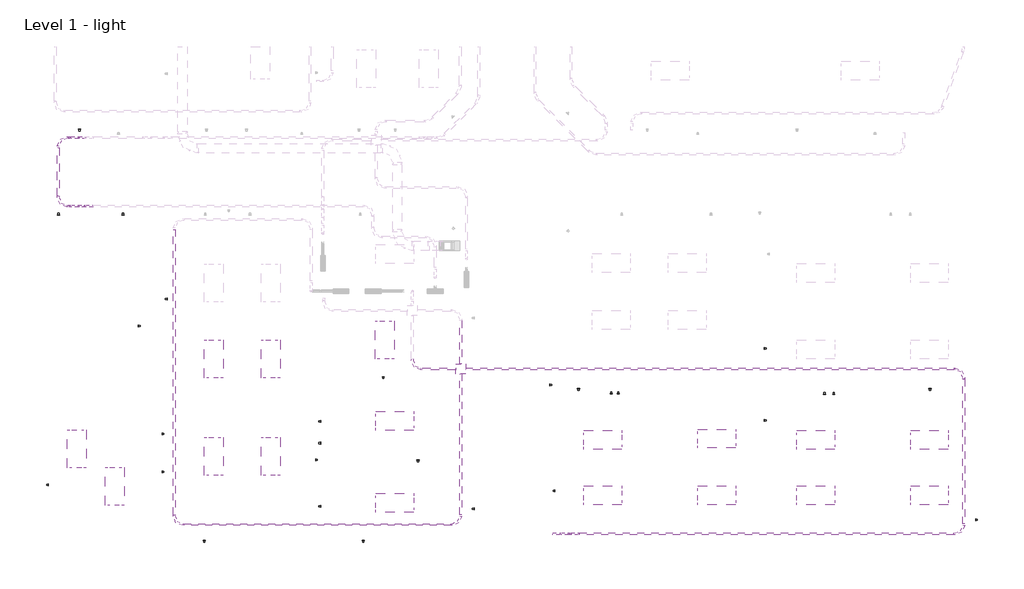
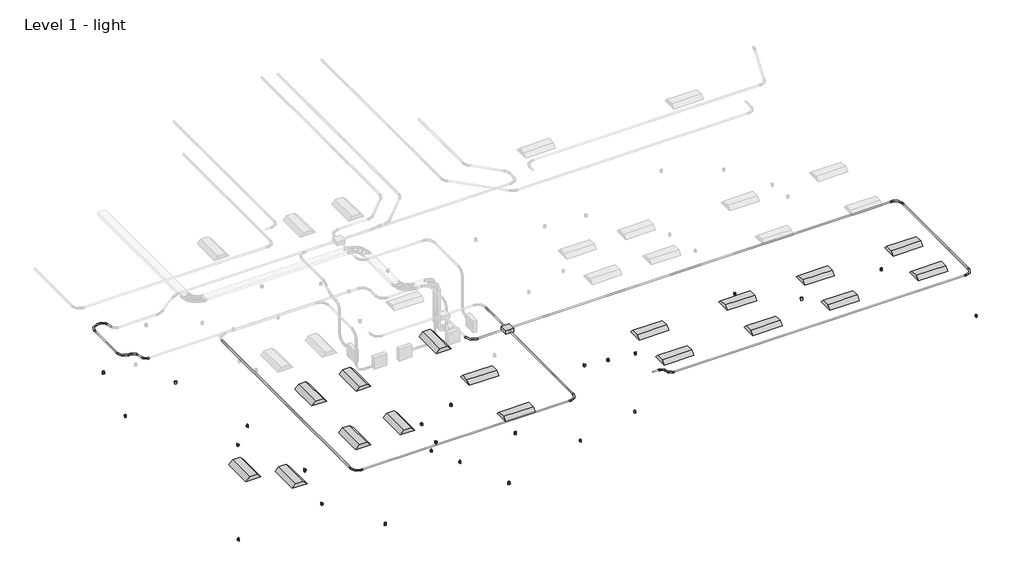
# One storey, part 1 of 5: 21 proxies, 17 light fixtures, 15 cable carrier segments, 13 cable carrier fittings, 7 switching devices.
"""IFC4 building model written with IfcOpenShell, lengths in millimetres."""

from ifc_helpers import new_model, si_unit, point, frame, frame_2d, origin, place, context, project, spatial, circle_curve, trimmed, segment, composite_curve, outline, extrude, transform, mapped, element, save
from components import m_duplex_receptacle_standard_10251bba, m_conduit_elbow_without_fittings_rnc_standard_30e86c5b, m_conduit_elbow_without_fittings_rnc_standard_89ecd00f, m_conduit_junction_box_cross_pvc_standard_3c8550d1, m_plain_recessed_lighting_fixture_c7d3eefa

model = new_model("IFC4")

# Units and contexts
model_context = context("Model", 3, world=origin())
ifc_project = project(units=[si_unit("LENGTHUNIT", "METRE", prefix="MILLI")], contexts=[model_context])

# Site, building, storey
site = spatial("IfcSite", under=ifc_project)
building = spatial("IfcBuilding", under=site)
storey = spatial("IfcBuildingStorey", under=building, Name="Level 1 - light", Elevation=0.0)

# Proxies
placement = place(None, origin())
m_duplex_receptacle_standard_shape = m_duplex_receptacle_standard_10251bba(model_context)
element("IfcBuildingElementProxy", 1, Name="M_Duplex Receptacle : Standard", ObjectType="M_Duplex Receptacle : Standard", at=placement, inside=storey, context=model_context, shape_type="MappedRepresentation", body=[
    mapped(m_duplex_receptacle_standard_shape, transform((-18902.5230824, 6803.8737109, 460.0), x_axis=(-1.0, 0.0, 0.0), y_axis=(0.0, 0.0, 1.0), z_axis=(0.0, 1.0, 0.0))),
])
element("IfcBuildingElementProxy", 2, Name="M_Duplex Receptacle : Standard", ObjectType="M_Duplex Receptacle : Standard", at=placement, inside=storey, context=model_context, shape_type="MappedRepresentation", body=[
    mapped(m_duplex_receptacle_standard_shape, transform((-3798.337755, -1407.3893409, 460.0), x_axis=(0.0, -1.0, 0.0), y_axis=(0.0, 0.0, 1.0), z_axis=(-1.0, 0.0, 0.0))),
])
element("IfcBuildingElementProxy", 3, Name="M_Duplex Receptacle : Standard", ObjectType="M_Duplex Receptacle : Standard", at=placement, inside=storey, context=model_context, shape_type="MappedRepresentation", body=[
    mapped(m_duplex_receptacle_standard_shape, transform((-6236.737755, -5394.1016203, 460.0), x_axis=(0.0, 1.0, 0.0), y_axis=(0.0, 0.0, 1.0), z_axis=(1.0, 0.0, 0.0))),
])
element("IfcBuildingElementProxy", 4, Name="M_Duplex Receptacle : Standard", ObjectType="M_Duplex Receptacle : Standard", at=placement, inside=storey, context=model_context, shape_type="MappedRepresentation", body=[
    mapped(m_duplex_receptacle_standard_shape, transform((-16091.937755, 1352.2197194, 460.0), x_axis=(0.0, 1.0, 0.0), y_axis=(0.0, 0.0, 1.0), z_axis=(1.0, 0.0, 0.0))),
])
element("IfcBuildingElementProxy", 5, Name="M_Duplex Receptacle : Standard", ObjectType="M_Duplex Receptacle : Standard", at=placement, inside=storey, context=model_context, shape_type="MappedRepresentation", body=[
    mapped(m_duplex_receptacle_standard_shape, transform((-9148.365511, -1149.5012891, 460.0), x_axis=(-1.0, 0.0, 0.0), y_axis=(0.0, 0.0, 1.0), z_axis=(0.0, 1.0, 0.0))),
])
element("IfcBuildingElementProxy", 6, Name="M_Duplex Receptacle : Standard", ObjectType="M_Duplex Receptacle : Standard", at=placement, inside=storey, context=model_context, shape_type="MappedRepresentation", body=[
    mapped(m_duplex_receptacle_standard_shape, transform((-14893.5822087, -6410.4762891, 460.0), x_axis=(-1.0, 0.0, 0.0), y_axis=(0.0, 0.0, 1.0), z_axis=(0.0, 1.0, 0.0))),
])
element("IfcBuildingElementProxy", 7, Name="M_Duplex Receptacle : Standard", ObjectType="M_Duplex Receptacle : Standard", at=placement, inside=storey, context=model_context, shape_type="MappedRepresentation", body=[
    mapped(m_duplex_receptacle_standard_shape, transform((-8035.7909657, -3829.2012891, 460.0), x_axis=(-1.0, 0.0, 0.0), y_axis=(0.0, 0.0, 1.0), z_axis=(0.0, 1.0, 0.0))),
])
element("IfcBuildingElementProxy", 8, Name="M_Duplex Receptacle : Standard", ObjectType="M_Duplex Receptacle : Standard", at=placement, inside=storey, context=model_context, shape_type="MappedRepresentation", body=[
    mapped(m_duplex_receptacle_standard_shape, transform((-11164.337755, -3278.9789683, 460.0), x_axis=(0.0, 1.0, 0.0), y_axis=(0.0, 0.0, 1.0), z_axis=(1.0, 0.0, 0.0))),
])
element("IfcBuildingElementProxy", 9, Name="M_Duplex Receptacle : Standard", ObjectType="M_Duplex Receptacle : Standard", at=placement, inside=storey, context=model_context, shape_type="MappedRepresentation", body=[
    mapped(m_duplex_receptacle_standard_shape, transform((-9792.0545767, -6410.4762891, 460.0), x_axis=(-1.0, 0.0, 0.0), y_axis=(0.0, 0.0, 1.0), z_axis=(0.0, 1.0, 0.0))),
])
element("IfcBuildingElementProxy", 10, Name="M_Duplex Receptacle : Standard", ObjectType="M_Duplex Receptacle : Standard", at=placement, inside=storey, context=model_context, shape_type="MappedRepresentation", body=[
    mapped(m_duplex_receptacle_standard_shape, transform((-19905.112755, -4617.0845767, 460.0), x_axis=(0.0, 1.0, 0.0), y_axis=(0.0, 0.0, 1.0), z_axis=(1.0, 0.0, 0.0))),
])
element("IfcBuildingElementProxy", 11, Name="M_Duplex Receptacle : Standard", ObjectType="M_Duplex Receptacle : Standard", at=placement, inside=storey, context=model_context, shape_type="MappedRepresentation", body=[
    mapped(m_duplex_receptacle_standard_shape, transform((-16247.512755, -4198.9265741, 460.0), x_axis=(0.0, -1.0, 0.0), y_axis=(0.0, 0.0, 1.0), z_axis=(-1.0, 0.0, 0.0))),
])
element("IfcBuildingElementProxy", 12, Name="M_Duplex Receptacle : Standard", ObjectType="M_Duplex Receptacle : Standard", at=placement, inside=storey, context=model_context, shape_type="MappedRepresentation", body=[
    mapped(m_duplex_receptacle_standard_shape, transform((-19576.9518381, 4054.3237109, 460.0), x_axis=(1.0, 0.0, 0.0), y_axis=(0.0, 0.0, 1.0), z_axis=(0.0, -1.0, 0.0))),
])
element("IfcBuildingElementProxy", 13, Name="M_Duplex Receptacle : Standard", ObjectType="M_Duplex Receptacle : Standard", at=placement, inside=storey, context=model_context, shape_type="MappedRepresentation", body=[
    mapped(m_duplex_receptacle_standard_shape, transform((-17012.687755, 487.1285997, 460.0), x_axis=(0.0, -1.0, 0.0), y_axis=(0.0, 0.0, 1.0), z_axis=(-1.0, 0.0, 0.0))),
])
element("IfcBuildingElementProxy", 14, Name="M_Duplex Receptacle : Standard", ObjectType="M_Duplex Receptacle : Standard", at=placement, inside=storey, context=model_context, shape_type="MappedRepresentation", body=[
    mapped(m_duplex_receptacle_standard_shape, transform((-2884.7717445, -1533.6762891, 460.0), x_axis=(-1.0, 0.0, 0.0), y_axis=(0.0, 0.0, 1.0), z_axis=(0.0, 1.0, 0.0))),
])
element("IfcBuildingElementProxy", 15, Name="M_Duplex Receptacle : Standard", ObjectType="M_Duplex Receptacle : Standard", at=placement, inside=storey, context=model_context, shape_type="MappedRepresentation", body=[
    mapped(m_duplex_receptacle_standard_shape, transform((3085.062245, -240.4622069, 460.0), x_axis=(0.0, -1.0, 0.0), y_axis=(0.0, 0.0, 1.0), z_axis=(-1.0, 0.0, 0.0))),
])
element("IfcBuildingElementProxy", 16, Name="M_Duplex Receptacle : Standard", ObjectType="M_Duplex Receptacle : Standard", at=placement, inside=storey, context=model_context, shape_type="MappedRepresentation", body=[
    mapped(m_duplex_receptacle_standard_shape, transform((8403.1229199, -1533.6762891, 460.0), x_axis=(-1.0, 0.0, 0.0), y_axis=(0.0, 0.0, 1.0), z_axis=(0.0, 1.0, 0.0))),
])
element("IfcBuildingElementProxy", 17, Name="M_Duplex Receptacle : Standard", ObjectType="M_Duplex Receptacle : Standard", at=placement, inside=storey, context=model_context, shape_type="MappedRepresentation", body=[
    mapped(m_duplex_receptacle_standard_shape, transform((-1830.9426075, -1689.2512891, 460.0), x_axis=(1.0, 0.0, 0.0), y_axis=(0.0, 0.0, 1.0), z_axis=(0.0, -1.0, 0.0))),
])
element("IfcBuildingElementProxy", 18, Name="M_Duplex Receptacle : Standard", ObjectType="M_Duplex Receptacle : Standard", at=placement, inside=storey, context=model_context, shape_type="MappedRepresentation", body=[
    mapped(m_duplex_receptacle_standard_shape, transform((-3642.762755, -4807.9310648, 460.0), x_axis=(0.0, 1.0, 0.0), y_axis=(0.0, 0.0, 1.0), z_axis=(1.0, 0.0, 0.0))),
])
element("IfcBuildingElementProxy", 19, Name="M_Duplex Receptacle : Standard", ObjectType="M_Duplex Receptacle : Standard", at=placement, inside=storey, context=model_context, shape_type="MappedRepresentation", body=[
    mapped(m_duplex_receptacle_standard_shape, transform((3085.062245, -2553.3765344, 460.0), x_axis=(0.0, -1.0, 0.0), y_axis=(0.0, 0.0, 1.0), z_axis=(-1.0, 0.0, 0.0))),
])
element("IfcBuildingElementProxy", 20, Name="M_Duplex Receptacle : Standard", ObjectType="M_Duplex Receptacle : Standard", at=placement, inside=storey, context=model_context, shape_type="MappedRepresentation", body=[
    mapped(m_duplex_receptacle_standard_shape, transform((5015.2046862, -1709.8887891, 460.0), x_axis=(-1.0, 0.0, 0.0), y_axis=(0.0, 0.0, -1.0), z_axis=(0.0, -1.0, 0.0))),
])
element("IfcBuildingElementProxy", 21, Name="M_Duplex Receptacle : Standard", ObjectType="M_Duplex Receptacle : Standard", at=placement, inside=storey, context=model_context, shape_type="MappedRepresentation", body=[
    mapped(m_duplex_receptacle_standard_shape, transform((9870.037245, -5742.7463579, 460.0), x_axis=(0.0, -1.0, 0.0), y_axis=(0.0, 0.0, 1.0), z_axis=(-1.0, 0.0, 0.0))),
])

# Cable carrier fittings
m_conduit_elbow_without_fittings_rnc_standard_shape = m_conduit_elbow_without_fittings_rnc_standard_30e86c5b(model_context)
element("IfcCableCarrierFitting", 22, ObjectType="M_Conduit Elbow - without Fittings - RNC : Standard", at=placement, inside=storey, context=model_context, shape_type="MappedRepresentation", body=[
    mapped(m_conduit_elbow_without_fittings_rnc_standard_shape, transform((-3016.4, -6196.8, 2750.0), x_axis=(-1.0, 0.0, 0.0), y_axis=(0.0, 0.0, 1.0), z_axis=(0.0, 1.0, 0.0))),
])
element("IfcCableCarrierFitting", 23, ObjectType="M_Conduit Elbow - without Fittings - RNC : Standard", at=placement, inside=storey, context=model_context, shape_type="MappedRepresentation", body=[
    mapped(m_conduit_elbow_without_fittings_rnc_standard_shape, transform((-3314.4, -6196.8, 3048.0), x_axis=(-0.7071067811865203, 0.0, 0.7071067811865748), y_axis=(-0.7071067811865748, 0.0, -0.7071067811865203), z_axis=(0.0, -1.0, 0.0))),
])
element("IfcCableCarrierFitting", 24, ObjectType="M_Conduit Elbow - without Fittings - RNC : Standard", at=placement, inside=storey, context=model_context, shape_type="MappedRepresentation", body=[
    mapped(m_conduit_elbow_without_fittings_rnc_standard_shape, transform((-19043.3725552, 4338.0528944, 2858.7513908), x_axis=(1.0, 0.0, 0.0), y_axis=(0.0, 0.0, -1.0), z_axis=(0.0, 1.0, 0.0))),
])
element("IfcCableCarrierFitting", 25, ObjectType="M_Conduit Elbow - without Fittings - RNC : Standard", at=placement, inside=storey, context=model_context, shape_type="MappedRepresentation", body=[
    mapped(m_conduit_elbow_without_fittings_rnc_standard_shape, transform((-18612.3211644, 4338.0528944, 2427.7), x_axis=(0.7071067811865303, 0.0, -0.7071067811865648), y_axis=(0.7071067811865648, 0.0, 0.7071067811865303), z_axis=(0.0, -1.0, 0.0))),
])
element("IfcCableCarrierFitting", 26, ObjectType="M_Conduit Elbow - without Fittings - RNC : Standard", at=placement, inside=storey, context=model_context, shape_type="MappedRepresentation", body=[
    mapped(m_conduit_elbow_without_fittings_rnc_standard_shape, transform((-19032.5844462, 6538.0528944, 2858.7513908), x_axis=(1.0, 0.0, 0.0), y_axis=(0.0, 0.0, -1.0), z_axis=(0.0, 1.0, 0.0))),
])
m_conduit_elbow_without_fittings_rnc_standard_2_shape = m_conduit_elbow_without_fittings_rnc_standard_89ecd00f(model_context)
element("IfcCableCarrierFitting", 27, ObjectType="M_Conduit Elbow - without Fittings - RNC : Standard", at=placement, inside=storey, context=model_context, shape_type="MappedRepresentation", body=[
    mapped(m_conduit_elbow_without_fittings_rnc_standard_2_shape, transform((-15863.4807444, -5896.8, 2750.0), x_axis=(0.0, -1.0, 0.0), y_axis=(1.0, 0.0, 0.0), z_axis=(0.0, 0.0, 1.0))),
])
element("IfcCableCarrierFitting", 28, ObjectType="M_Conduit Elbow - without Fittings - RNC : Standard", at=placement, inside=storey, context=model_context, shape_type="MappedRepresentation", body=[
    mapped(m_conduit_elbow_without_fittings_rnc_standard_2_shape, transform((-6663.4807444, -5896.8, 2750.0), x_axis=(1.0, 0.0, 0.0), y_axis=(0.0, 1.0, 0.0), z_axis=(0.0, 0.0, 1.0))),
])
element("IfcCableCarrierFitting", 29, ObjectType="M_Conduit Elbow - without Fittings - RNC : Standard", at=placement, inside=storey, context=model_context, shape_type="MappedRepresentation", body=[
    mapped(m_conduit_elbow_without_fittings_rnc_standard_2_shape, transform((-8216.4, -896.8, 2750.0), x_axis=(0.0, -1.0, 0.0), y_axis=(1.0, 0.0, 0.0), z_axis=(0.0, 0.0, 1.0))),
])
element("IfcCableCarrierFitting", 30, ObjectType="M_Conduit Elbow - without Fittings - RNC : Standard", at=placement, inside=storey, context=model_context, shape_type="MappedRepresentation", body=[
    mapped(m_conduit_elbow_without_fittings_rnc_standard_2_shape, transform((9483.6, -896.8, 2750.0), x_axis=(0.0, 1.0, 0.0), y_axis=(-1.0, 0.0, 0.0), z_axis=(0.0, 0.0, 1.0))),
])
element("IfcCableCarrierFitting", 31, ObjectType="M_Conduit Elbow - without Fittings - RNC : Standard", at=placement, inside=storey, context=model_context, shape_type="MappedRepresentation", body=[
    mapped(m_conduit_elbow_without_fittings_rnc_standard_2_shape, transform((9483.6, -6196.8, 2750.0), x_axis=(1.0, 0.0, 0.0), y_axis=(0.0, 1.0, 0.0), z_axis=(0.0, 0.0, 1.0))),
])
element("IfcCableCarrierFitting", 32, ObjectType="M_Conduit Elbow - without Fittings - RNC : Standard", at=placement, inside=storey, context=model_context, shape_type="MappedRepresentation", body=[
    mapped(m_conduit_elbow_without_fittings_rnc_standard_2_shape, transform((-19581.8, 4338.0528944, 2858.7513908), x_axis=(0.0, -1.0, 0.0), y_axis=(1.0, 0.0, 0.0), z_axis=(0.0, 0.0, 1.0))),
])
element("IfcCableCarrierFitting", 33, ObjectType="M_Conduit Elbow - without Fittings - RNC : Standard", at=placement, inside=storey, context=model_context, shape_type="MappedRepresentation", body=[
    mapped(m_conduit_elbow_without_fittings_rnc_standard_2_shape, transform((-19581.8, 6538.0528944, 2858.7513908), x_axis=(-1.0, 0.0, 0.0), y_axis=(0.0, -1.0, 0.0), z_axis=(0.0, 0.0, 1.0))),
])
m_conduit_junction_box_cross_pvc_standard_shape = m_conduit_junction_box_cross_pvc_standard_3c8550d1(model_context)
element("IfcCableCarrierFitting", 34, ObjectType="M_Conduit Junction Box - Cross - PVC : Standard", at=placement, inside=storey, context=model_context, shape_type="MappedRepresentation", body=[
    mapped(m_conduit_junction_box_cross_pvc_standard_shape, transform((-6663.4807444, -896.8, 2750.0), x_axis=(-1.0, 0.0, 0.0), y_axis=(0.0, -1.0, 0.0), z_axis=(0.0, 0.0, 1.0))),
])

# Cable carrier segments
element("IfcCableCarrierSegment", 35, ObjectType="Rigid Nonmetallic Conduit (RNC Sch 40)", at=placement, inside=storey, context=model_context, shape_type="SweptSolid", body=[
    extrude(outline(composite_curve([segment(trimmed(circle_curve(frame_2d((2750.0, -15863.4807444)), 30.165), [point((2750.0, -15893.6457444))], [point((2719.835, -15863.4807444))], False, "CARTESIAN"), True, "CONTINUOUS"), segment(trimmed(circle_curve(frame_2d((2750.0, -15863.4807444)), 30.165), [point((2719.835, -15863.4807444))], [point((2750.0, -15833.3157444))], False, "CARTESIAN"), True, "CONTINUOUS"), segment(trimmed(circle_curve(frame_2d((2750.0, -15863.4807444)), 30.165), [point((2750.0, -15833.3157444))], [point((2780.165, -15863.4807444))], False, "CARTESIAN"), True, "CONTINUOUS"), segment(trimmed(circle_curve(frame_2d((2750.0, -15863.4807444)), 30.165), [point((2780.165, -15863.4807444))], [point((2750.0, -15893.6457444))], False, "CARTESIAN"), True, "CONTINUOUS")], self_intersect=False)), frame((0.0, -5574.54, 0.0), z_axis=(0.0, 1.0, 0.0), x_axis=(0.0, 0.0, 1.0)), (0.0, 0.0, 1.0), 9155.48),
])
element("IfcCableCarrierSegment", 36, ObjectType="Rigid Nonmetallic Conduit (RNC Sch 40)", at=placement, inside=storey, context=model_context, shape_type="SweptSolid", body=[
    extrude(outline(composite_curve([segment(trimmed(circle_curve(frame_2d((-5896.8, 2750.0)), 30.165), [point((-5926.965, 2750.0))], [point((-5896.8, 2780.165))], False, "CARTESIAN"), True, "CONTINUOUS"), segment(trimmed(circle_curve(frame_2d((-5896.8, 2750.0)), 30.165), [point((-5896.8, 2780.165))], [point((-5866.635, 2750.0))], False, "CARTESIAN"), True, "CONTINUOUS"), segment(trimmed(circle_curve(frame_2d((-5896.8, 2750.0)), 30.165), [point((-5866.635, 2750.0))], [point((-5896.8, 2719.835))], False, "CARTESIAN"), True, "CONTINUOUS"), segment(trimmed(circle_curve(frame_2d((-5896.8, 2750.0)), 30.165), [point((-5896.8, 2719.835))], [point((-5926.965, 2750.0))], False, "CARTESIAN"), True, "CONTINUOUS")], self_intersect=False)), frame((-15541.2207444, 0.0, 0.0), z_axis=(1.0, 0.0, 0.0), x_axis=(0.0, 1.0, 0.0)), (0.0, 0.0, 1.0), 8555.48),
])
element("IfcCableCarrierSegment", 37, ObjectType="Rigid Nonmetallic Conduit (RNC Sch 40)", at=placement, inside=storey, context=model_context, shape_type="SweptSolid", body=[
    extrude(outline(composite_curve([segment(trimmed(circle_curve(frame_2d((2750.0, -6663.4807444)), 30.165), [point((2750.0, -6633.3157444))], [point((2780.165, -6663.4807444))], False, "CARTESIAN"), True, "CONTINUOUS"), segment(trimmed(circle_curve(frame_2d((2750.0, -6663.4807444)), 30.165), [point((2780.165, -6663.4807444))], [point((2750.0, -6693.6457444))], False, "CARTESIAN"), True, "CONTINUOUS"), segment(trimmed(circle_curve(frame_2d((2750.0, -6663.4807444)), 30.165), [point((2750.0, -6693.6457444))], [point((2719.835, -6663.4807444))], False, "CARTESIAN"), True, "CONTINUOUS"), segment(trimmed(circle_curve(frame_2d((2750.0, -6663.4807444)), 30.165), [point((2719.835, -6663.4807444))], [point((2750.0, -6633.3157444))], False, "CARTESIAN"), True, "CONTINUOUS")], self_intersect=False)), frame((0.0, -737.8, 0.0), z_axis=(0.0, 1.0, 0.0), x_axis=(0.0, 0.0, 1.0)), (0.0, 0.0, 1.0), 1396.48),
])
element("IfcCableCarrierSegment", 38, ObjectType="Rigid Nonmetallic Conduit (RNC Sch 40)", at=placement, inside=storey, context=model_context, shape_type="SweptSolid", body=[
    extrude(outline(composite_curve([segment(trimmed(circle_curve(frame_2d((-896.8, 2750.0)), 30.165), [point((-926.965, 2750.0))], [point((-896.8, 2780.165))], False, "CARTESIAN"), True, "CONTINUOUS"), segment(trimmed(circle_curve(frame_2d((-896.8, 2750.0)), 30.165), [point((-896.8, 2780.165))], [point((-866.635, 2750.0))], False, "CARTESIAN"), True, "CONTINUOUS"), segment(trimmed(circle_curve(frame_2d((-896.8, 2750.0)), 30.165), [point((-866.635, 2750.0))], [point((-896.8, 2719.835))], False, "CARTESIAN"), True, "CONTINUOUS"), segment(trimmed(circle_curve(frame_2d((-896.8, 2750.0)), 30.165), [point((-896.8, 2719.835))], [point((-926.965, 2750.0))], False, "CARTESIAN"), True, "CONTINUOUS")], self_intersect=False)), frame((-6504.4807444, 0.0, 0.0), z_axis=(1.0, 0.0, 0.0), x_axis=(0.0, 1.0, 0.0)), (0.0, 0.0, 1.0), 15665.8207444),
])
element("IfcCableCarrierSegment", 39, ObjectType="Rigid Nonmetallic Conduit (RNC Sch 40)", at=placement, inside=storey, context=model_context, shape_type="SweptSolid", body=[
    extrude(outline(composite_curve([segment(trimmed(circle_curve(frame_2d((-896.8, 2750.0)), 30.165), [point((-926.965, 2750.0))], [point((-896.8, 2780.165))], False, "CARTESIAN"), True, "CONTINUOUS"), segment(trimmed(circle_curve(frame_2d((-896.8, 2750.0)), 30.165), [point((-896.8, 2780.165))], [point((-866.635, 2750.0))], False, "CARTESIAN"), True, "CONTINUOUS"), segment(trimmed(circle_curve(frame_2d((-896.8, 2750.0)), 30.165), [point((-866.635, 2750.0))], [point((-896.8, 2719.835))], False, "CARTESIAN"), True, "CONTINUOUS"), segment(trimmed(circle_curve(frame_2d((-896.8, 2750.0)), 30.165), [point((-896.8, 2719.835))], [point((-926.965, 2750.0))], False, "CARTESIAN"), True, "CONTINUOUS")], self_intersect=False)), frame((-7894.14, 0.0, 0.0), z_axis=(1.0, 0.0, 0.0), x_axis=(0.0, 1.0, 0.0)), (0.0, 0.0, 1.0), 1071.6592556),
])
element("IfcCableCarrierSegment", 40, ObjectType="Rigid Nonmetallic Conduit (RNC Sch 40)", at=placement, inside=storey, context=model_context, shape_type="SweptSolid", body=[
    extrude(outline(composite_curve([segment(trimmed(circle_curve(frame_2d((2750.0, -6663.4807444)), 30.165), [point((2750.0, -6633.3157444))], [point((2780.165, -6663.4807444))], False, "CARTESIAN"), True, "CONTINUOUS"), segment(trimmed(circle_curve(frame_2d((2750.0, -6663.4807444)), 30.165), [point((2780.165, -6663.4807444))], [point((2750.0, -6693.6457444))], False, "CARTESIAN"), True, "CONTINUOUS"), segment(trimmed(circle_curve(frame_2d((2750.0, -6663.4807444)), 30.165), [point((2750.0, -6693.6457444))], [point((2719.835, -6663.4807444))], False, "CARTESIAN"), True, "CONTINUOUS"), segment(trimmed(circle_curve(frame_2d((2750.0, -6663.4807444)), 30.165), [point((2719.835, -6663.4807444))], [point((2750.0, -6633.3157444))], False, "CARTESIAN"), True, "CONTINUOUS")], self_intersect=False)), frame((0.0, -5574.54, 0.0), z_axis=(0.0, 1.0, 0.0), x_axis=(0.0, 0.0, 1.0)), (0.0, 0.0, 1.0), 4518.74),
])
element("IfcCableCarrierSegment", 41, ObjectType="Rigid Nonmetallic Conduit (RNC Sch 40)", at=placement, inside=storey, context=model_context, shape_type="SweptSolid", body=[
    extrude(outline(composite_curve([segment(trimmed(circle_curve(frame_2d((2750.0, 9483.6)), 30.165), [point((2750.0, 9453.435))], [point((2719.835, 9483.6))], False, "CARTESIAN"), True, "CONTINUOUS"), segment(trimmed(circle_curve(frame_2d((2750.0, 9483.6)), 30.165), [point((2719.835, 9483.6))], [point((2750.0, 9513.765))], False, "CARTESIAN"), True, "CONTINUOUS"), segment(trimmed(circle_curve(frame_2d((2750.0, 9483.6)), 30.165), [point((2750.0, 9513.765))], [point((2780.165, 9483.6))], False, "CARTESIAN"), True, "CONTINUOUS"), segment(trimmed(circle_curve(frame_2d((2750.0, 9483.6)), 30.165), [point((2780.165, 9483.6))], [point((2750.0, 9453.435))], False, "CARTESIAN"), True, "CONTINUOUS")], self_intersect=False)), frame((0.0, -5874.54, 0.0), z_axis=(0.0, 1.0, 0.0), x_axis=(0.0, 0.0, 1.0)), (0.0, 0.0, 1.0), 4655.48),
])
element("IfcCableCarrierSegment", 42, ObjectType="Rigid Nonmetallic Conduit (RNC Sch 40)", at=placement, inside=storey, context=model_context, shape_type="SweptSolid", body=[
    extrude(outline(composite_curve([segment(trimmed(circle_curve(frame_2d((-6196.8, 2750.0)), 30.165), [point((-6166.635, 2750.0))], [point((-6196.8, 2719.835))], False, "CARTESIAN"), True, "CONTINUOUS"), segment(trimmed(circle_curve(frame_2d((-6196.8, 2750.0)), 30.165), [point((-6196.8, 2719.835))], [point((-6226.965, 2750.0))], False, "CARTESIAN"), True, "CONTINUOUS"), segment(trimmed(circle_curve(frame_2d((-6196.8, 2750.0)), 30.165), [point((-6226.965, 2750.0))], [point((-6196.8, 2780.165))], False, "CARTESIAN"), True, "CONTINUOUS"), segment(trimmed(circle_curve(frame_2d((-6196.8, 2750.0)), 30.165), [point((-6196.8, 2780.165))], [point((-6166.635, 2750.0))], False, "CARTESIAN"), True, "CONTINUOUS")], self_intersect=False)), frame((-2853.1575864, 0.0, 0.0), z_axis=(1.0, 0.0, 0.0), x_axis=(0.0, 1.0, 0.0)), (0.0, 0.0, 1.0), 12014.4975864),
])
element("IfcCableCarrierSegment", 43, ObjectType="Rigid Nonmetallic Conduit (RNC Sch 40)", at=placement, inside=storey, context=model_context, shape_type="SweptSolid", body=[
    extrude(outline(composite_curve([segment(trimmed(circle_curve(frame_2d((-6196.8, 3048.0)), 30.165), [point((-6166.635, 3048.0))], [point((-6196.8, 3017.835))], False, "CARTESIAN"), True, "CONTINUOUS"), segment(trimmed(circle_curve(frame_2d((-6196.8, 3048.0)), 30.165), [point((-6196.8, 3017.835))], [point((-6226.965, 3048.0))], False, "CARTESIAN"), True, "CONTINUOUS"), segment(trimmed(circle_curve(frame_2d((-6196.8, 3048.0)), 30.165), [point((-6226.965, 3048.0))], [point((-6196.8, 3078.165))], False, "CARTESIAN"), True, "CONTINUOUS"), segment(trimmed(circle_curve(frame_2d((-6196.8, 3048.0)), 30.165), [point((-6196.8, 3078.165))], [point((-6166.635, 3048.0))], False, "CARTESIAN"), True, "CONTINUOUS")], self_intersect=False)), frame((-3716.4, 0.0, 0.0), z_axis=(1.0, 0.0, 0.0), x_axis=(0.0, 1.0, 0.0)), (0.0, 0.0, 1.0), 238.7575864),
])
element("IfcCableCarrierSegment", 44, ObjectType="Rigid Nonmetallic Conduit (RNC Sch 40)", at=placement, inside=storey, context=model_context, shape_type="SweptSolid", body=[
    extrude(outline(composite_curve([segment(trimmed(circle_curve(frame_2d((0.0, 30.165)), 30.165), [point((0.0, 60.33))], [point((30.165, 30.165))], False, "CARTESIAN"), True, "CONTINUOUS"), segment(trimmed(circle_curve(frame_2d((0.0, 30.165)), 30.165), [point((30.165, 30.165))], [point((0.0, 0.0))], False, "CARTESIAN"), True, "CONTINUOUS"), segment(trimmed(circle_curve(frame_2d((0.0, 30.165)), 30.165), [point((0.0, 0.0))], [point((-30.165, 30.165))], False, "CARTESIAN"), True, "CONTINUOUS"), segment(trimmed(circle_curve(frame_2d((0.0, 30.165)), 30.165), [point((-30.165, 30.165))], [point((0.0, 60.33))], False, "CARTESIAN"), True, "CONTINUOUS")], self_intersect=False)), frame((-3131.8298177, -6226.965, 2865.4298177), z_axis=(-0.7071067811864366, 0.0, 0.7071067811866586), x_axis=(0.7071067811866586, 0.0, 0.7071067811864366)), (0.0, 0.0, 1.0), 94.9508143),
])
element("IfcCableCarrierSegment", 45, ObjectType="Rigid Nonmetallic Conduit (RNC Sch 40)", at=placement, inside=storey, context=model_context, shape_type="SweptSolid", body=[
    extrude(outline(composite_curve([segment(trimmed(circle_curve(frame_2d((2858.7513908, -19581.8)), 30.165), [point((2858.7513908, -19551.635))], [point((2888.9163908, -19581.8))], False, "CARTESIAN"), True, "CONTINUOUS"), segment(trimmed(circle_curve(frame_2d((2858.7513908, -19581.8)), 30.165), [point((2888.9163908, -19581.8))], [point((2858.7513908, -19611.965))], False, "CARTESIAN"), True, "CONTINUOUS"), segment(trimmed(circle_curve(frame_2d((2858.7513908, -19581.8)), 30.165), [point((2858.7513908, -19611.965))], [point((2828.5863908, -19581.8))], False, "CARTESIAN"), True, "CONTINUOUS"), segment(trimmed(circle_curve(frame_2d((2858.7513908, -19581.8)), 30.165), [point((2828.5863908, -19581.8))], [point((2858.7513908, -19551.635))], False, "CARTESIAN"), True, "CONTINUOUS")], self_intersect=False)), frame((0.0, 4660.3128944, 0.0), z_axis=(0.0, 1.0, 0.0), x_axis=(0.0, 0.0, 1.0)), (0.0, 0.0, 1.0), 1555.48),
])
element("IfcCableCarrierSegment", 46, ObjectType="Rigid Nonmetallic Conduit (RNC Sch 40)", at=placement, inside=storey, context=model_context, shape_type="SweptSolid", body=[
    extrude(outline(composite_curve([segment(trimmed(circle_curve(frame_2d((4338.0528944, 2858.7513908)), 30.165), [point((4307.8878944, 2858.7513908))], [point((4338.0528944, 2888.9163908))], False, "CARTESIAN"), True, "CONTINUOUS"), segment(trimmed(circle_curve(frame_2d((4338.0528944, 2858.7513908)), 30.165), [point((4338.0528944, 2888.9163908))], [point((4368.2178944, 2858.7513908))], False, "CARTESIAN"), True, "CONTINUOUS"), segment(trimmed(circle_curve(frame_2d((4338.0528944, 2858.7513908)), 30.165), [point((4368.2178944, 2858.7513908))], [point((4338.0528944, 2828.5863908))], False, "CARTESIAN"), True, "CONTINUOUS"), segment(trimmed(circle_curve(frame_2d((4338.0528944, 2858.7513908)), 30.165), [point((4338.0528944, 2828.5863908))], [point((4307.8878944, 2858.7513908))], False, "CARTESIAN"), True, "CONTINUOUS")], self_intersect=False)), frame((-19259.54, 0.0, 0.0), z_axis=(1.0, 0.0, 0.0), x_axis=(0.0, 1.0, 0.0)), (0.0, 0.0, 1.0), 52.9250311),
])
element("IfcCableCarrierSegment", 47, ObjectType="Rigid Nonmetallic Conduit (RNC Sch 40)", at=placement, inside=storey, context=model_context, shape_type="SweptSolid", body=[
    extrude(outline(composite_curve([segment(trimmed(circle_curve(frame_2d((0.0, -30.165)), 30.165), [point((0.0, -60.33))], [point((-30.165, -30.165))], False, "CARTESIAN"), True, "CONTINUOUS"), segment(trimmed(circle_curve(frame_2d((0.0, -30.165)), 30.165), [point((-30.165, -30.165))], [point((0.0, 0.0))], False, "CARTESIAN"), True, "CONTINUOUS"), segment(trimmed(circle_curve(frame_2d((0.0, -30.165)), 30.165), [point((0.0, 0.0))], [point((30.165, -30.165))], False, "CARTESIAN"), True, "CONTINUOUS"), segment(trimmed(circle_curve(frame_2d((0.0, -30.165)), 30.165), [point((30.165, -30.165))], [point((0.0, -60.33))], False, "CARTESIAN"), True, "CONTINUOUS")], self_intersect=False)), frame((-18727.7509821, 4368.2178944, 2543.1298177), z_axis=(-0.7071067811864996, 0.0, 0.7071067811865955), x_axis=(0.7071067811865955, 0.0, 0.7071067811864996)), (0.0, 0.0, 1.0), 283.1138957),
])
element("IfcCableCarrierSegment", 48, ObjectType="Rigid Nonmetallic Conduit (RNC Sch 40)", at=placement, inside=storey, context=model_context, shape_type="SweptSolid", body=[
    extrude(outline(composite_curve([segment(trimmed(circle_curve(frame_2d((6538.0528944, 2858.7513908)), 30.165), [point((6507.8878944, 2858.7513908))], [point((6538.0528944, 2888.9163908))], False, "CARTESIAN"), True, "CONTINUOUS"), segment(trimmed(circle_curve(frame_2d((6538.0528944, 2858.7513908)), 30.165), [point((6538.0528944, 2888.9163908))], [point((6568.2178944, 2858.7513908))], False, "CARTESIAN"), True, "CONTINUOUS"), segment(trimmed(circle_curve(frame_2d((6538.0528944, 2858.7513908)), 30.165), [point((6568.2178944, 2858.7513908))], [point((6538.0528944, 2828.5863908))], False, "CARTESIAN"), True, "CONTINUOUS"), segment(trimmed(circle_curve(frame_2d((6538.0528944, 2858.7513908)), 30.165), [point((6538.0528944, 2828.5863908))], [point((6507.8878944, 2858.7513908))], False, "CARTESIAN"), True, "CONTINUOUS")], self_intersect=False)), frame((-19259.54, 0.0, 0.0), z_axis=(1.0, 0.0, 0.0), x_axis=(0.0, 1.0, 0.0)), (0.0, 0.0, 1.0), 63.7131402),
])
element("IfcCableCarrierSegment", 49, ObjectType="Rigid Nonmetallic Conduit (RNC Sch 40)", at=placement, inside=storey, context=model_context, shape_type="SweptSolid", body=[
    extrude(outline(composite_curve([segment(trimmed(circle_curve(frame_2d((0.0, -30.165)), 30.165), [point((0.0, -60.33))], [point((-30.1650001, -30.165))], False, "CARTESIAN"), True, "CONTINUOUS"), segment(trimmed(circle_curve(frame_2d((0.0, -30.165)), 30.165), [point((-30.1650001, -30.165))], [point((0.0, 0.0))], False, "CARTESIAN"), True, "CONTINUOUS"), segment(trimmed(circle_curve(frame_2d((0.0, -30.165)), 30.165), [point((0.0, 0.0))], [point((30.1649999, -30.165))], False, "CARTESIAN"), True, "CONTINUOUS"), segment(trimmed(circle_curve(frame_2d((0.0, -30.165)), 30.165), [point((30.1649999, -30.165))], [point((0.0, -60.33))], False, "CARTESIAN"), True, "CONTINUOUS")], self_intersect=False)), frame((-18716.962873, 6568.2178944, 2543.1298177), z_axis=(-0.7071067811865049, 0.0, 0.7071067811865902), x_axis=(0.7071067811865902, 0.0, 0.7071067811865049)), (0.0, 0.0, 1.0), 283.1138957),
])

# Light fixtures
m_plain_recessed_lighting_fixture_shape = m_plain_recessed_lighting_fixture_c7d3eefa(model_context)
element("IfcLightFixture", 50, ObjectType="M_Plain Recessed Lighting Fixture : tubelight", at=placement, inside=storey, context=model_context, shape_type="MappedRepresentation", body=[
    mapped(m_plain_recessed_lighting_fixture_shape, transform((-14290.125255, -1178.0762891, 2438.4), x_axis=(0.0, 1.0, 0.0), y_axis=(1.0, 0.0, 0.0), z_axis=(0.0, 0.0, -1.0))),
])
element("IfcLightFixture", 51, ObjectType="M_Plain Recessed Lighting Fixture : tubelight", at=placement, inside=storey, context=model_context, shape_type="MappedRepresentation", body=[
    mapped(m_plain_recessed_lighting_fixture_shape, transform((-12461.325255, -1178.0762891, 2438.4), x_axis=(0.0, 1.0, 0.0), y_axis=(1.0, 0.0, 0.0), z_axis=(0.0, 0.0, -1.0))),
])
element("IfcLightFixture", 52, ObjectType="M_Plain Recessed Lighting Fixture : tubelight", at=placement, inside=storey, context=model_context, shape_type="MappedRepresentation", body=[
    mapped(m_plain_recessed_lighting_fixture_shape, transform((-8803.725255, -568.3762891, 2438.4), x_axis=(0.0, 1.0, 0.0), y_axis=(1.0, 0.0, 0.0), z_axis=(0.0, 0.0, -1.0))),
])
element("IfcLightFixture", 53, ObjectType="M_Plain Recessed Lighting Fixture : tubelight", at=placement, inside=storey, context=model_context, shape_type="MappedRepresentation", body=[
    mapped(m_plain_recessed_lighting_fixture_shape, transform((-14290.125255, -4316.4762891, 2438.4), x_axis=(0.0, 1.0, 0.0), y_axis=(1.0, 0.0, 0.0), z_axis=(0.0, 0.0, -1.0))),
])
element("IfcLightFixture", 54, ObjectType="M_Plain Recessed Lighting Fixture : tubelight", at=placement, inside=storey, context=model_context, shape_type="MappedRepresentation", body=[
    mapped(m_plain_recessed_lighting_fixture_shape, transform((-12461.325255, -4316.4762891, 2438.4), x_axis=(0.0, 1.0, 0.0), y_axis=(1.0, 0.0, 0.0), z_axis=(0.0, 0.0, -1.0))),
])
element("IfcLightFixture", 55, ObjectType="M_Plain Recessed Lighting Fixture : tubelight", at=placement, inside=storey, context=model_context, shape_type="MappedRepresentation", body=[
    mapped(m_plain_recessed_lighting_fixture_shape, transform((-9387.825255, -2871.6387891, 2438.4), x_axis=(1.0, 0.0, 0.0), y_axis=(0.0, -1.0, 0.0), z_axis=(0.0, 0.0, -1.0))),
])
element("IfcLightFixture", 56, ObjectType="M_Plain Recessed Lighting Fixture : tubelight", at=placement, inside=storey, context=model_context, shape_type="MappedRepresentation", body=[
    mapped(m_plain_recessed_lighting_fixture_shape, transform((-9387.825255, -5502.1262891, 2438.4), x_axis=(1.0, 0.0, 0.0), y_axis=(0.0, -1.0, 0.0), z_axis=(0.0, 0.0, -1.0))),
])
element("IfcLightFixture", 57, ObjectType="M_Plain Recessed Lighting Fixture : tubelight", at=placement, inside=storey, context=model_context, shape_type="MappedRepresentation", body=[
    mapped(m_plain_recessed_lighting_fixture_shape, transform((-19295.512755, -2857.6512891, 2438.4), x_axis=(0.0, -1.0, 0.0), y_axis=(-1.0, 0.0, 0.0), z_axis=(0.0, 0.0, -1.0))),
])
element("IfcLightFixture", 58, ObjectType="M_Plain Recessed Lighting Fixture : tubelight", at=placement, inside=storey, context=model_context, shape_type="MappedRepresentation", body=[
    mapped(m_plain_recessed_lighting_fixture_shape, transform((-18076.312755, -4057.6512891, 2438.4), x_axis=(0.0, -1.0, 0.0), y_axis=(-1.0, 0.0, 0.0), z_axis=(0.0, 0.0, -1.0))),
])
element("IfcLightFixture", 59, ObjectType="M_Plain Recessed Lighting Fixture : tubelight", at=placement, inside=storey, context=model_context, shape_type="MappedRepresentation", body=[
    mapped(m_plain_recessed_lighting_fixture_shape, transform((-1498.050255, -2871.6387891, 2438.4), x_axis=(-1.0, 0.0, 0.0), y_axis=(0.0, 1.0, 0.0), z_axis=(0.0, 0.0, -1.0))),
])
element("IfcLightFixture", 60, ObjectType="M_Plain Recessed Lighting Fixture : tubelight", at=placement, inside=storey, context=model_context, shape_type="MappedRepresentation", body=[
    mapped(m_plain_recessed_lighting_fixture_shape, transform((2159.549745, -2830.6637891, 2438.4), x_axis=(-1.0, 0.0, 0.0), y_axis=(0.0, 1.0, 0.0), z_axis=(0.0, 0.0, -1.0))),
])
element("IfcLightFixture", 61, ObjectType="M_Plain Recessed Lighting Fixture : tubelight", at=placement, inside=storey, context=model_context, shape_type="MappedRepresentation", body=[
    mapped(m_plain_recessed_lighting_fixture_shape, transform((-1498.050255, -4659.4637891, 2438.4), x_axis=(-1.0, 0.0, 0.0), y_axis=(0.0, 1.0, 0.0), z_axis=(0.0, 0.0, -1.0))),
])
element("IfcLightFixture", 62, ObjectType="M_Plain Recessed Lighting Fixture : tubelight", at=placement, inside=storey, context=model_context, shape_type="MappedRepresentation", body=[
    mapped(m_plain_recessed_lighting_fixture_shape, transform((2159.549745, -4659.4637891, 2438.4), x_axis=(-1.0, 0.0, 0.0), y_axis=(0.0, 1.0, 0.0), z_axis=(0.0, 0.0, -1.0))),
])
element("IfcLightFixture", 63, ObjectType="M_Plain Recessed Lighting Fixture : tubelight", at=placement, inside=storey, context=model_context, shape_type="MappedRepresentation", body=[
    mapped(m_plain_recessed_lighting_fixture_shape, transform((5336.137245, -2871.6387891, 2438.4), x_axis=(-1.0, 0.0, 0.0), y_axis=(0.0, 1.0, 0.0), z_axis=(0.0, 0.0, -1.0))),
])
element("IfcLightFixture", 64, ObjectType="M_Plain Recessed Lighting Fixture : tubelight", at=placement, inside=storey, context=model_context, shape_type="MappedRepresentation", body=[
    mapped(m_plain_recessed_lighting_fixture_shape, transform((8993.737245, -2871.6387891, 2438.4), x_axis=(-1.0, 0.0, 0.0), y_axis=(0.0, 1.0, 0.0), z_axis=(0.0, 0.0, -1.0))),
])
element("IfcLightFixture", 65, ObjectType="M_Plain Recessed Lighting Fixture : tubelight", at=placement, inside=storey, context=model_context, shape_type="MappedRepresentation", body=[
    mapped(m_plain_recessed_lighting_fixture_shape, transform((5336.137245, -4659.4637891, 2438.4), x_axis=(-1.0, 0.0, 0.0), y_axis=(0.0, 1.0, 0.0), z_axis=(0.0, 0.0, -1.0))),
])
element("IfcLightFixture", 66, ObjectType="M_Plain Recessed Lighting Fixture : tubelight", at=placement, inside=storey, context=model_context, shape_type="MappedRepresentation", body=[
    mapped(m_plain_recessed_lighting_fixture_shape, transform((8993.737245, -4659.4637891, 2438.4), x_axis=(-1.0, 0.0, 0.0), y_axis=(0.0, 1.0, 0.0), z_axis=(0.0, 0.0, -1.0))),
])

# Switching devices
element("IfcSwitchingDevice", 67, ObjectType="M_Lighting Switches : Door", at=placement, inside=storey, context=model_context, shape_type="MappedRepresentation", body=[
    mapped(m_duplex_receptacle_standard_shape, transform((-16247.512755, -2984.598253, 1200.0), x_axis=(0.0, -1.0, 0.0), y_axis=(0.0, 0.0, 1.0), z_axis=(-1.0, 0.0, 0.0))),
])
element("IfcSwitchingDevice", 68, ObjectType="M_Lighting Switches : Door", at=placement, inside=storey, context=model_context, shape_type="MappedRepresentation", body=[
    mapped(m_duplex_receptacle_standard_shape, transform((-11319.912755, -3816.9139891, 1200.0), x_axis=(0.0, -1.0, 0.0), y_axis=(0.0, 0.0, 1.0), z_axis=(-1.0, 0.0, 0.0))),
])
element("IfcSwitchingDevice", 69, ObjectType="M_Lighting Switches : Door", at=placement, inside=storey, context=model_context, shape_type="MappedRepresentation", body=[
    mapped(m_duplex_receptacle_standard_shape, transform((-11164.337755, -5310.2170703, 1200.0), x_axis=(0.0, 1.0, 0.0), y_axis=(0.0, 0.0, 1.0), z_axis=(1.0, 0.0, 0.0))),
])
element("IfcSwitchingDevice", 70, ObjectType="M_Lighting Switches : Door", at=placement, inside=storey, context=model_context, shape_type="MappedRepresentation", body=[
    mapped(m_duplex_receptacle_standard_shape, transform((-11164.337755, -2585.225523, 1200.0), x_axis=(0.0, 1.0, 0.0), y_axis=(0.0, 0.0, 1.0), z_axis=(1.0, 0.0, 0.0))),
])
element("IfcSwitchingDevice", 71, ObjectType="M_Lighting Switches : Door", at=placement, inside=storey, context=model_context, shape_type="MappedRepresentation", body=[
    mapped(m_duplex_receptacle_standard_shape, transform((5315.8716287, -1708.3012891, 1200.0), x_axis=(1.0, 0.0, 0.0), y_axis=(0.0, 0.0, 1.0), z_axis=(0.0, -1.0, 0.0))),
])
element("IfcSwitchingDevice", 72, ObjectType="M_Lighting Switches : Door", at=placement, inside=storey, context=model_context, shape_type="MappedRepresentation", body=[
    mapped(m_duplex_receptacle_standard_shape, transform((-1609.3513049, -1689.2512891, 1200.0), x_axis=(1.0, 0.0, 0.0), y_axis=(0.0, 0.0, 1.0), z_axis=(0.0, -1.0, 0.0))),
])
element("IfcSwitchingDevice", 73, ObjectType="M_Lighting Switches : Door", at=placement, inside=storey, context=model_context, shape_type="MappedRepresentation", body=[
    mapped(m_duplex_receptacle_standard_shape, transform((-17504.4545389, 4054.3237109, 1200.0), x_axis=(1.0, 0.0, 0.0), y_axis=(0.0, 0.0, 1.0), z_axis=(0.0, -1.0, 0.0))),
])

save(model, "model.ifc")
